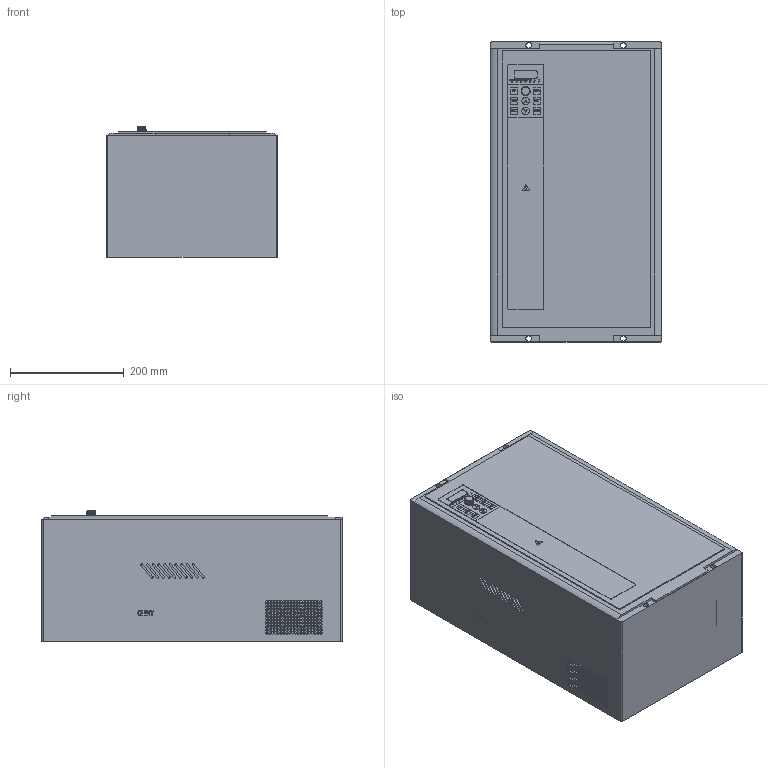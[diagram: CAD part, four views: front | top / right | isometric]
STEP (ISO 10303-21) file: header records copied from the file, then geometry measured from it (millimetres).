
FILE_DESCRIPTION(/* description */ (''),/* implementation_level */ '2;1');
FILE_NAME(/* name */ 'D:\2 ДОГОВОР ЧИНТ\Выслать\CHINT 10.03.2019\NVF2G\NVF2G-22 TS4(30 PS4) NVF2G-30 TS4(37 PS4) NVF2G-37 TS4(45 PS4).stp',/* time_stamp */ '2019-03-11T18:50:41+03:00',/* author */ ('RSagdiev'),/* organization */ (''),/* preprocessor_version */ 'ST-DEVELOPER v16.5',/* originating_system */ 'Autodesk Inventor 2017',/* authorisation */ '');
FILE_SCHEMA (('AUTOMOTIVE_DESIGN { 1 0 10303 214 3 1 1 }'));
Length unit declared in the file: millimetre
Products named in the file (1): NVF2G-22 TS4(30 PS4) NVF2G-30 TS4(37 PS4) NVF2G-37 TS4(45 PS4)
Bounding box: 300.1 x 527 x 230 mm (x, y, z)
Volume: 34643222.3 mm3; surface area: 1333210.3 mm2
Topology: 15 solids, 15 shells, 1643 faces, 3858 edges, 2572 vertices
Faces by surface type: plane 1044, cylinder 316, bspline 193, cone 90
Full cylindrical faces by diameter (mm): 2 x7, 4 x240, 10 x4, 13 x3
Entity records: 47334 total; most frequent: CARTESIAN_POINT 11340, ORIENTED_EDGE 7208, DIRECTION 6752, EDGE_CURVE 3604, VERTEX_POINT 2572, AXIS2_PLACEMENT_3D 2263, EDGE_LOOP 2232, LINE 2226
